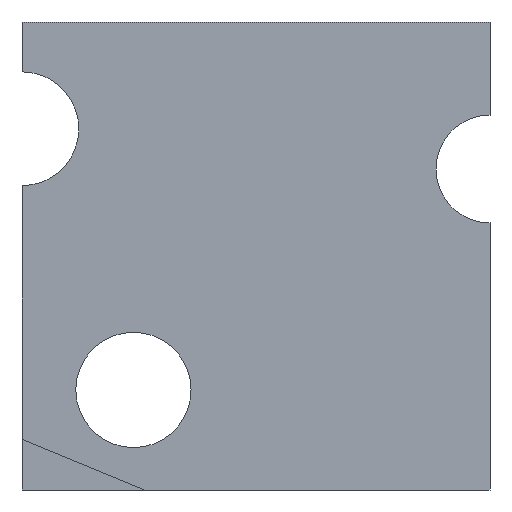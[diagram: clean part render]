
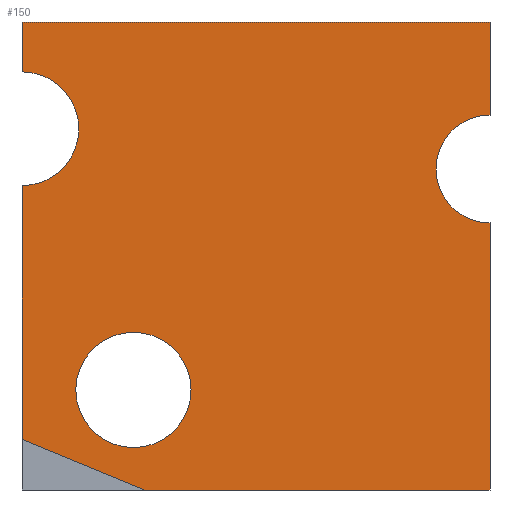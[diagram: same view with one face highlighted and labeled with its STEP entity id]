
A CAD part, front view. The second image highlights one B-rep face of the part: STEP entity #150.
In plain terms, the highlighted planar face has unit normal (0, -1, 0).
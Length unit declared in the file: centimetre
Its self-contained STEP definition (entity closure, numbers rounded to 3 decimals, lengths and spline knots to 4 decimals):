
#12 = AXIS2_PLACEMENT_3D ( 'NONE', #919, #689, #175 ) ;
#35 = CARTESIAN_POINT ( 'NONE',  ( 1000., 0., 1000. ) ) ;
#36 = DIRECTION ( 'NONE',  ( -0.924, 0., 0.381 ) ) ;
#38 = EDGE_CURVE ( 'NONE', #946, #251, #121, .T. ) ;
#43 = ORIENTED_EDGE ( 'NONE', *, *, #371, .F. ) ;
#56 = FACE_BOUND ( 'NONE', #770, .T. ) ;
#73 = VECTOR ( 'NONE', #36, 100. ) ;
#78 = DIRECTION ( 'NONE',  ( 0., -1., 0. ) ) ;
#109 = AXIS2_PLACEMENT_3D ( 'NONE', #816, #78, #437 ) ;
#121 = CIRCLE ( 'NONE', #192, 121.4875 ) ;
#137 = DIRECTION ( 'NONE',  ( 1., 0., 0. ) ) ;
#138 = EDGE_CURVE ( 'NONE', #946, #158, #415, .T. ) ;
#150 = ADVANCED_FACE ( 'NONE', ( #56, #342 ), #642, .F. ) ;
#152 = DIRECTION ( 'NONE',  ( 0., 0., -1. ) ) ;
#157 = LINE ( 'NONE', #447, #909 ) ;
#158 = VERTEX_POINT ( 'NONE', #677 ) ;
#175 = DIRECTION ( 'NONE',  ( 0., 0., -1. ) ) ;
#180 = EDGE_CURVE ( 'NONE', #219, #538, #908, .T. ) ;
#192 = AXIS2_PLACEMENT_3D ( 'NONE', #917, #559, #298 ) ;
#219 = VERTEX_POINT ( 'NONE', #683 ) ;
#245 = ORIENTED_EDGE ( 'NONE', *, *, #38, .F. ) ;
#251 = VERTEX_POINT ( 'NONE', #407 ) ;
#259 = CARTESIAN_POINT ( 'NONE',  ( 1000., 0., 1000. ) ) ;
#266 = EDGE_CURVE ( 'NONE', #538, #645, #697, .T. ) ;
#273 = ORIENTED_EDGE ( 'NONE', *, *, #364, .F. ) ;
#275 = VECTOR ( 'NONE', #716, 100. ) ;
#286 = ORIENTED_EDGE ( 'NONE', *, *, #266, .F. ) ;
#294 = VECTOR ( 'NONE', #137, 100. ) ;
#298 = DIRECTION ( 'NONE',  ( 0., 0., -1. ) ) ;
#342 = FACE_OUTER_BOUND ( 'NONE', #589, .T. ) ;
#347 = CARTESIAN_POINT ( 'NONE',  ( 0., 0., 1000. ) ) ;
#364 = EDGE_CURVE ( 'NONE', #780, #727, #403, .T. ) ;
#371 = EDGE_CURVE ( 'NONE', #502, #219, #519, .T. ) ;
#375 = CARTESIAN_POINT ( 'NONE',  ( 238.1022, 0., 336.8391 ) ) ;
#383 = EDGE_CURVE ( 'NONE', #727, #780, #671, .T. ) ;
#403 = CIRCLE ( 'NONE', #810, 123.1047 ) ;
#405 = VECTOR ( 'NONE', #725, 100. ) ;
#407 = CARTESIAN_POINT ( 'NONE',  ( 0., 0., 893.4154 ) ) ;
#413 = LINE ( 'NONE', #805, #294 ) ;
#415 = LINE ( 'NONE', #490, #275 ) ;
#425 = VERTEX_POINT ( 'NONE', #903 ) ;
#437 = DIRECTION ( 'NONE',  ( 0., 0., -1. ) ) ;
#445 = ORIENTED_EDGE ( 'NONE', *, *, #383, .F. ) ;
#447 = CARTESIAN_POINT ( 'NONE',  ( 0., 0., 0. ) ) ;
#450 = VERTEX_POINT ( 'NONE', #795 ) ;
#475 = AXIS2_PLACEMENT_3D ( 'NONE', #567, #940, #602 ) ;
#490 = CARTESIAN_POINT ( 'NONE',  ( 0., 0., 1000. ) ) ;
#502 = VERTEX_POINT ( 'NONE', #259 ) ;
#506 = ORIENTED_EDGE ( 'NONE', *, *, #180, .F. ) ;
#509 = CARTESIAN_POINT ( 'NONE',  ( 1000., 0., 1000. ) ) ;
#519 = LINE ( 'NONE', #509, #563 ) ;
#531 = DIRECTION ( 'NONE',  ( 0., -1., 0. ) ) ;
#536 = ORIENTED_EDGE ( 'NONE', *, *, #588, .T. ) ;
#538 = VERTEX_POINT ( 'NONE', #720 ) ;
#550 = EDGE_CURVE ( 'NONE', #425, #502, #413, .T. ) ;
#553 = CARTESIAN_POINT ( 'NONE',  ( 0., 0., 107.8862 ) ) ;
#559 = DIRECTION ( 'NONE',  ( 0., -1., 0. ) ) ;
#563 = VECTOR ( 'NONE', #152, 100. ) ;
#567 = CARTESIAN_POINT ( 'NONE',  ( 0., 0., 1000. ) ) ;
#580 = DIRECTION ( 'NONE',  ( 0., 0., -1. ) ) ;
#588 = EDGE_CURVE ( 'NONE', #425, #251, #800, .T. ) ;
#589 = EDGE_LOOP ( 'NONE', ( #286, #506, #43, #910, #536, #245, #649, #748, #736 ) ) ;
#594 = CARTESIAN_POINT ( 'NONE',  ( 1000., 0., 0. ) ) ;
#602 = DIRECTION ( 'NONE',  ( 0., 0., 1. ) ) ;
#608 = CARTESIAN_POINT ( 'NONE',  ( 238.1022, 0., 213.7344 ) ) ;
#613 = VECTOR ( 'NONE', #781, 100. ) ;
#642 = PLANE ( 'NONE',  #475 ) ;
#645 = VERTEX_POINT ( 'NONE', #594 ) ;
#649 = ORIENTED_EDGE ( 'NONE', *, *, #138, .T. ) ;
#671 = CIRCLE ( 'NONE', #109, 123.1047 ) ;
#677 = CARTESIAN_POINT ( 'NONE',  ( 0., 0., 107.8862 ) ) ;
#683 = CARTESIAN_POINT ( 'NONE',  ( 1000., 0., 801.2469 ) ) ;
#689 = DIRECTION ( 'NONE',  ( 0., -1., 0. ) ) ;
#697 = LINE ( 'NONE', #35, #613 ) ;
#711 = CARTESIAN_POINT ( 'NONE',  ( 0., 0., 650.4404 ) ) ;
#716 = DIRECTION ( 'NONE',  ( 0., 0., -1. ) ) ;
#720 = CARTESIAN_POINT ( 'NONE',  ( 1000., 0., 570.5658 ) ) ;
#725 = DIRECTION ( 'NONE',  ( 0., 0., -1. ) ) ;
#727 = VERTEX_POINT ( 'NONE', #375 ) ;
#736 = ORIENTED_EDGE ( 'NONE', *, *, #744, .T. ) ;
#744 = EDGE_CURVE ( 'NONE', #450, #645, #157, .T. ) ;
#748 = ORIENTED_EDGE ( 'NONE', *, *, #792, .F. ) ;
#770 = EDGE_LOOP ( 'NONE', ( #273, #445 ) ) ;
#780 = VERTEX_POINT ( 'NONE', #911 ) ;
#781 = DIRECTION ( 'NONE',  ( 0., 0., -1. ) ) ;
#792 = EDGE_CURVE ( 'NONE', #450, #158, #855, .T. ) ;
#795 = CARTESIAN_POINT ( 'NONE',  ( 261.6298, 0., 0. ) ) ;
#800 = LINE ( 'NONE', #347, #405 ) ;
#805 = CARTESIAN_POINT ( 'NONE',  ( 0., 0., 1000. ) ) ;
#810 = AXIS2_PLACEMENT_3D ( 'NONE', #608, #531, #580 ) ;
#816 = CARTESIAN_POINT ( 'NONE',  ( 238.1022, 0., 213.7344 ) ) ;
#826 = DIRECTION ( 'NONE',  ( 1., 0., 0. ) ) ;
#855 = LINE ( 'NONE', #553, #73 ) ;
#903 = CARTESIAN_POINT ( 'NONE',  ( 0., 0., 1000. ) ) ;
#908 = CIRCLE ( 'NONE', #12, 115.3405 ) ;
#909 = VECTOR ( 'NONE', #826, 100. ) ;
#910 = ORIENTED_EDGE ( 'NONE', *, *, #550, .F. ) ;
#911 = CARTESIAN_POINT ( 'NONE',  ( 238.1022, 0., 90.6297 ) ) ;
#917 = CARTESIAN_POINT ( 'NONE',  ( 0., 0., 771.9279 ) ) ;
#919 = CARTESIAN_POINT ( 'NONE',  ( 1000., 0., 685.9063 ) ) ;
#940 = DIRECTION ( 'NONE',  ( 0., 1., 0. ) ) ;
#946 = VERTEX_POINT ( 'NONE', #711 ) ;
